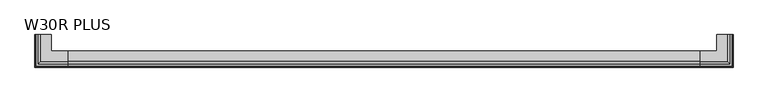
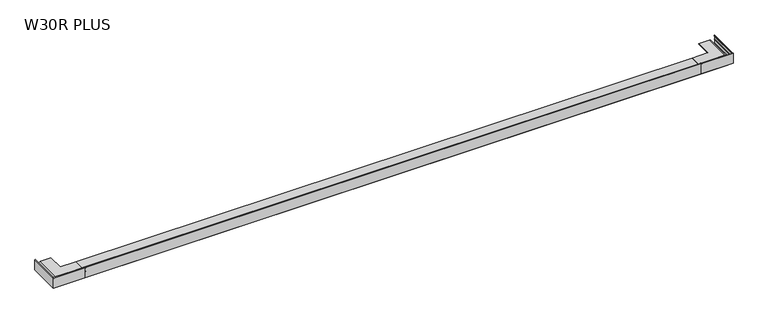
"""IFC4 building model written with IfcOpenShell, lengths in millimetres: proxy geometry, W30R PLUS Profil okapowy prosty z rynną : W30R PLUS."""

from ifc_helpers import new_model, si_unit, point, frame, frame_2d, origin, place, context, project, spatial, polyline, circle_curve, ellipse_curve, trimmed, segment, composite_curve, outline, extrude, source, transform, mapped, element, save
from ifc_brep_helpers import plane_surface, cylinder_surface, revolved_surface, advanced_brep


def w30r_plus_abaad994(model_context):
    return source(origin(), model_context, "Body", "SolidModel", [
        advanced_brep(
        [(4926.0, 0.0, -1.6974779), (4926.0, 0.0, -5.7), (4926.0, -1.5, -5.7), (4926.0, -1.5, -2.4), (4926.0, -16.1, -17.0), (4926.0, -16.1, -73.2535534), (4926.0, -17.6, -74.7535534), (4926.0, -17.6, -34.7), (4926.0, -42.0, -34.7), (4926.0, -42.0, -51.3622205), (4926.0, -43.5, -53.2278443), (4926.0, -43.5, 27.2077037), (4926.0, -40.7, 30.0077037), (4926.0, -40.7, 28.2077037), (4926.0, -41.7, 27.2077037), (4926.0, -41.7, 24.3), (4926.0, -38.5, 24.3), (4926.0, -38.5, 22.8), (4926.0, -42.0, 22.8), (4926.0, -42.0, -3.8), (4926.0, -38.5, -3.8), (4926.0, -38.5, -5.3), (4926.0, -42.0, -5.3), (4926.0, -42.0, -32.3), (4926.0, -18.5, -32.3), (4926.0, -18.5, -17.0), (4926.0, -1.5, 0.0), (4926.0, 79.1, 0.0), (4926.0, 79.1, -1.6974779), (5126.0, 200.0, -1.6974779), (5046.9, 200.0, -1.6974779), (5046.9, 200.0, 0.0), (5127.5, 200.0, 0.0), (5144.5, 200.0, -17.0), (5144.5, 200.0, -32.3), (5168.0, 200.0, -32.3), (5168.0, 200.0, -5.3), (5164.5, 200.0, -5.3), (5164.5, 200.0, -3.8), (5168.0, 200.0, -3.8), (5168.0, 200.0, 22.8), (5164.5, 200.0, 22.8), (5164.5, 200.0, 24.3), (5167.7, 200.0, 24.3), (5167.7, 200.0, 27.2077037), (5166.7, 200.0, 28.2077037), (5166.7, 200.0, 30.0077037), (5169.5, 200.0, 27.2077037), (5169.5, 200.0, -53.2278443), (5168.0, 200.0, -51.3622205), (5168.0, 200.0, -34.7), (5143.6, 200.0, -34.7), (5143.6, 200.0, -74.7535534), (5142.1, 200.0, -73.2535534), (5142.1, 200.0, -17.0), (5127.5, 200.0, -2.4), (5127.5, 200.0, -5.7), (5126.0, 200.0, -5.7), (5046.9, 79.1, -1.6974779), (5126.0, 0.0, -1.6974779), (5046.9, 79.1, 0.0), (5127.5, -1.5, 0.0), (5144.5, -18.5, -17.0), (5144.5, -18.5, -32.3), (5168.0, -42.0, -32.3), (5168.0, -42.0, -5.3), (5164.5, -38.5, -5.3), (5164.5, -38.5, -3.8), (5168.0, -42.0, -3.8), (5168.0, -42.0, 22.8), (5164.5, -38.5, 22.8), (5164.5, -38.5, 24.3), (5167.7, -41.7, 24.3), (5167.7, -41.7, 27.2077037), (5166.7, -40.7, 28.2077037), (5166.7, -40.7, 30.0077037), (5169.5, -43.5, 27.2077037), (5169.5, -43.5, -53.2278443), (5168.0, -42.0, -51.3622205), (5168.0, -42.0, -34.7), (5143.6, -17.6, -34.7), (5143.6, -17.6, -74.7535534), (5142.1, -16.1, -73.2535534), (5142.1, -16.1, -17.0), (5127.5, -1.5, -2.4), (5127.5, -1.5, -5.7), (5126.0, 0.0, -5.7)],
        [
            (0, 1),
            (1, 2),
            (2, 3),
            (3, 4, circle_curve(frame((4926.0, -1.5, -17.0), z_axis=(1.0, 0.0, 0.0), x_axis=(0.0, -0.013888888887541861, 0.9999035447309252)), 14.6)),
            (4, 5),
            (5, 6),
            (6, 7),
            (7, 8),
            (8, 9),
            (9, 10),
            (10, 11),
            (11, 12, circle_curve(frame((4926.0, -40.7, 27.2077037), z_axis=(-1.0, 0.0, 0.0), x_axis=(0.0, -1.0, 6.608047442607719e-12)), 2.8)),
            (12, 13),
            (13, 14, circle_curve(frame((4926.0, -40.7, 27.2077037), z_axis=(1.0, 0.0, 0.0), x_axis=(0.0, -0.16666666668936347, 0.986013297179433)), 1.0)),
            (14, 15),
            (15, 16),
            (16, 17),
            (17, 18),
            (18, 19),
            (19, 20),
            (20, 21),
            (21, 22),
            (22, 23),
            (23, 24),
            (24, 25),
            (25, 26, circle_curve(frame((4926.0, -1.5, -17.0), z_axis=(-1.0, 0.0, 0.0), x_axis=(0.0, -1.0, 0.0)), 17.0)),
            (26, 27),
            (27, 28),
            (28, 0),
            (29, 30),
            (30, 31),
            (31, 32),
            (32, 33, circle_curve(frame((5127.5, 200.0, -17.0), z_axis=(0.0, 1.0, 0.0), x_axis=(1.0, 0.0, 0.0)), 17.0)),
            (33, 34),
            (34, 35),
            (35, 36),
            (36, 37),
            (37, 38),
            (38, 39),
            (39, 40),
            (40, 41),
            (41, 42),
            (42, 43),
            (43, 44),
            (44, 45, circle_curve(frame((5166.7, 200.0, 27.2077037), z_axis=(0.0, -1.0, 0.0), x_axis=(0.16666666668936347, 0.0, 0.986013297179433)), 1.0)),
            (45, 46),
            (46, 47, circle_curve(frame((5166.7, 200.0, 27.2077037), z_axis=(0.0, 1.0, 0.0), x_axis=(1.0, 0.0, 6.608047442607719e-12)), 2.8)),
            (47, 48),
            (48, 49),
            (49, 50),
            (50, 51),
            (51, 52),
            (52, 53),
            (53, 54),
            (54, 55, circle_curve(frame((5127.5, 200.0, -17.0), z_axis=(0.0, -1.0, 0.0), x_axis=(0.013888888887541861, 0.0, 0.9999035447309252)), 14.6)),
            (55, 56),
            (56, 57),
            (57, 29),
            (28, 58),
            (58, 30),
            (29, 59),
            (59, 0),
            (27, 60),
            (60, 58),
            (26, 61),
            (61, 32),
            (31, 60),
            (25, 62),
            (62, 61, ellipse_curve(frame((5127.5, -1.5, -17.0), z_axis=(-0.7071067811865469, -0.707106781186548, 0.0), x_axis=(-0.7071067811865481, 0.7071067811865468, 0.0)), 24.0416306, 17.0)),
            (24, 63),
            (63, 62),
            (23, 64),
            (64, 35),
            (34, 63),
            (22, 65),
            (65, 64),
            (21, 66),
            (66, 37),
            (36, 65),
            (20, 67),
            (67, 66),
            (19, 68),
            (68, 39),
            (38, 67),
            (18, 69),
            (69, 68),
            (17, 70),
            (70, 41),
            (40, 69),
            (16, 71),
            (71, 70),
            (15, 72),
            (72, 43),
            (42, 71),
            (14, 73),
            (73, 72),
            (13, 74),
            (74, 73, ellipse_curve(frame((5166.7, -40.7, 27.2077037), z_axis=(0.7071067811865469, 0.707106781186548, 0.0), x_axis=(0.7071067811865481, -0.7071067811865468, 0.0)), 1.4142136, 1.0)),
            (12, 75),
            (75, 74),
            (11, 76),
            (76, 75, ellipse_curve(frame((5166.7, -40.7, 27.2077037), z_axis=(-0.7071067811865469, -0.707106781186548, 0.0), x_axis=(-0.7071067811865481, 0.7071067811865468, 0.0)), 3.959798, 2.8)),
            (10, 77),
            (77, 76),
            (9, 78),
            (78, 77),
            (8, 79),
            (79, 78),
            (7, 80),
            (80, 51),
            (50, 79),
            (6, 81),
            (81, 80),
            (5, 82),
            (82, 81),
            (4, 83),
            (83, 82),
            (3, 84),
            (84, 83, ellipse_curve(frame((5127.5, -1.5, -17.0), z_axis=(0.7071067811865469, 0.707106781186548, 0.0), x_axis=(0.7071067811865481, -0.7071067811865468, 0.0)), 20.647518, 14.6)),
            (2, 85),
            (85, 84),
            (1, 86),
            (86, 57),
            (56, 85),
            (59, 86),
            (62, 33),
            (73, 44),
            (74, 45),
            (75, 46),
            (76, 47),
            (77, 48),
            (78, 49),
            (81, 52),
            (82, 53),
            (83, 54),
            (84, 55),
        ],
        [
            plane_surface(frame((4926.0, 0.0, 0.0), z_axis=(-1.0, 0.0, 0.0), x_axis=(0.0, 0.0, 1.0))),
            plane_surface(frame((5126.0, 200.0, 0.0), z_axis=(0.0, 1.0, 0.0), x_axis=(0.0, 0.0, 1.0))),
            plane_surface(frame((4926.0, 0.0, -1.6974779), z_axis=(0.0, 0.0, -1.0), x_axis=(1.0, 0.0, 0.0))),
            plane_surface(frame((4926.0, 79.1, -1.6974779), z_axis=(0.0, 1.0, 0.0), x_axis=(1.0, 0.0, 0.0))),
            plane_surface(frame((4926.0, 79.1, 0.0), z_axis=(0.0, 0.0, 1.0), x_axis=(1.0, 0.0, 0.0))),
            cylinder_surface(frame((4926.0, -1.5, -17.0), z_axis=(-1.0, 0.0, 0.0), x_axis=(0.0, -1.0, 0.0)), 17.0),
            plane_surface(frame((4926.0, -18.5, -17.0), z_axis=(0.0, -1.0, 0.0), x_axis=(1.0, 0.0, 0.0))),
            plane_surface(frame((4926.0, -18.5, -32.3), z_axis=(0.0, 0.0, 1.0), x_axis=(1.0, 0.0, 0.0))),
            plane_surface(frame((4926.0, -42.0, -32.3), z_axis=(0.0, 1.0, 0.0), x_axis=(1.0, 0.0, 0.0))),
            plane_surface(frame((4926.0, -42.0, -5.3), z_axis=(0.0, 0.0, -1.0), x_axis=(1.0, 0.0, 0.0))),
            plane_surface(frame((4926.0, -38.5, -5.3), z_axis=(0.0, 1.0, 0.0), x_axis=(1.0, 0.0, 0.0))),
            plane_surface(frame((4926.0, -38.5, -3.8), z_axis=(0.0, 0.0, 1.0), x_axis=(1.0, 0.0, 0.0))),
            plane_surface(frame((4926.0, -42.0, -3.8), z_axis=(0.0, 1.0, 0.0), x_axis=(1.0, 0.0, 0.0))),
            plane_surface(frame((4926.0, -42.0, 22.8), z_axis=(0.0, 0.0, -1.0), x_axis=(1.0, 0.0, 0.0))),
            plane_surface(frame((4926.0, -38.5, 22.8), z_axis=(0.0, 1.0, 0.0), x_axis=(1.0, 0.0, 0.0))),
            plane_surface(frame((4926.0, -38.5, 24.3), z_axis=(0.0, 0.0, 1.0), x_axis=(1.0, 0.0, 0.0))),
            plane_surface(frame((4926.0, -41.7, 24.3), z_axis=(0.0, 1.0, 0.0), x_axis=(1.0, 0.0, 0.0))),
            revolved_surface(polyline([(5167.700000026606, -40.86666666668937, 28.193716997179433), (4926.0, -40.86666666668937, 28.193716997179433)]), (4926.0, -40.7, 27.2077037), (1.0000000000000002, 0.0, 0.0)),
            plane_surface(frame((4926.0, -40.7, 28.2077037), z_axis=(0.0, 1.0, 0.0), x_axis=(1.0, 0.0, 0.0))),
            cylinder_surface(frame((4926.0, -40.7, 27.2077037), z_axis=(-1.0, 0.0, 0.0), x_axis=(0.0, -1.0, 6.608047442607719e-12)), 2.8),
            plane_surface(frame((4926.0, -43.5, 27.2077037), z_axis=(0.0, -1.0, 0.0), x_axis=(1.0, 0.0, 0.0))),
            plane_surface(frame((4926.0, -43.5, -53.2278443), z_axis=(0.0, 0.7793379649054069, -0.6266038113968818), x_axis=(1.0, 0.0, 0.0))),
            plane_surface(frame((4926.0, -42.0, -51.3622205), z_axis=(0.0, 1.0, 0.0), x_axis=(1.0, 0.0, 0.0))),
            plane_surface(frame((4926.0, -42.0, -34.7), z_axis=(0.0, 0.0, -1.0), x_axis=(1.0, 0.0, 0.0))),
            plane_surface(frame((4926.0, -17.6, -34.7), z_axis=(0.0, -1.0, 0.0), x_axis=(1.0, 0.0, 0.0))),
            plane_surface(frame((4926.0, -17.6, -74.7535534), z_axis=(0.0, 0.7071067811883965, -0.7071067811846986), x_axis=(1.0, 0.0, 0.0))),
            plane_surface(frame((4926.0, -16.1, -73.2535534), z_axis=(0.0, 1.0, 0.0), x_axis=(1.0, 0.0, 0.0))),
            revolved_surface(polyline([(5142.1, -1.7027777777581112, -2.401408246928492), (4926.0, -1.7027777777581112, -2.401408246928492)]), (4926.0, -1.5, -17.0), (1.0, 0.0, 0.0)),
            plane_surface(frame((4926.0, -1.5, -2.4), z_axis=(0.0, -1.0, 0.0), x_axis=(1.0, 0.0, 0.0))),
            plane_surface(frame((4926.0, -1.5, -5.7), z_axis=(0.0, 0.0, -1.0), x_axis=(1.0, 0.0, 0.0))),
            plane_surface(frame((4926.0, 0.0, -5.7), z_axis=(0.0, 1.0, 0.0), x_axis=(1.0, 0.0, 0.0))),
            plane_surface(frame((5046.9, 79.1, -1.6974779), z_axis=(-1.0, 0.0, 0.0), x_axis=(0.0, 1.0, 0.0))),
            cylinder_surface(frame((5127.5, 0.0, -17.0), z_axis=(0.0, -1.0, 0.0), x_axis=(1.0, 0.0, 0.0)), 17.0),
            plane_surface(frame((5144.5, -18.5, -17.0), z_axis=(1.0, 0.0, 0.0), x_axis=(0.0, 1.0, 0.0))),
            plane_surface(frame((5168.0, -42.0, -32.3), z_axis=(-1.0, 0.0, 0.0), x_axis=(0.0, 1.0, 0.0))),
            plane_surface(frame((5164.5, -38.5, -5.3), z_axis=(-1.0, 0.0, 0.0), x_axis=(0.0, 1.0, 0.0))),
            plane_surface(frame((5168.0, -42.0, -3.8), z_axis=(-1.0, 0.0, 0.0), x_axis=(0.0, 1.0, 0.0))),
            plane_surface(frame((5164.5, -38.5, 22.8), z_axis=(-1.0, 0.0, 0.0), x_axis=(0.0, 1.0, 0.0))),
            plane_surface(frame((5167.7, -41.7, 24.3), z_axis=(-1.0, 0.0, 0.0), x_axis=(0.0, 1.0, 0.0))),
            revolved_surface(polyline([(5166.8666666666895, 200.0000000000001, 28.193716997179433), (5166.8666666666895, -41.700000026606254, 28.193716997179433)]), (5166.7, 0.0, 27.2077037), (0.0, 1.0000000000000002, 0.0)),
            plane_surface(frame((5166.7, -40.7, 28.2077037), z_axis=(-1.0, 0.0, 0.0), x_axis=(0.0, 1.0, 0.0))),
            cylinder_surface(frame((5166.7, 0.0, 27.2077037), z_axis=(0.0, -1.0, 0.0), x_axis=(1.0, 0.0, 6.608047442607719e-12)), 2.8),
            plane_surface(frame((5169.5, -43.5, 27.2077037), z_axis=(1.0, 0.0, 0.0), x_axis=(0.0, 1.0, 0.0))),
            plane_surface(frame((5169.5, -43.5, -53.2278443), z_axis=(-0.7793379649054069, 0.0, -0.6266038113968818), x_axis=(0.0, 1.0, 0.0))),
            plane_surface(frame((5168.0, -42.0, -51.3622205), z_axis=(-1.0, 0.0, 0.0), x_axis=(0.0, 1.0, 0.0))),
            plane_surface(frame((5143.6, -17.6, -34.7), z_axis=(1.0, 0.0, 0.0), x_axis=(0.0, 1.0, 0.0))),
            plane_surface(frame((5143.6, -17.6, -74.7535534), z_axis=(-0.7071067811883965, 0.0, -0.7071067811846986), x_axis=(0.0, 1.0, 0.0))),
            plane_surface(frame((5142.1, -16.1, -73.2535534), z_axis=(-1.0, 0.0, 0.0), x_axis=(0.0, 1.0, 0.0))),
            revolved_surface(polyline([(5127.7027777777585, 200.0, -2.401408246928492), (5127.7027777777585, -16.1, -2.401408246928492)]), (5127.5, 0.0, -17.0), (0.0, 1.0, 0.0)),
            plane_surface(frame((5127.5, -1.5, -2.4), z_axis=(1.0, 0.0, 0.0), x_axis=(0.0, 1.0, 0.0))),
            plane_surface(frame((5126.0, 0.0, -5.7), z_axis=(-1.0, 0.0, 0.0), x_axis=(0.0, 1.0, 0.0))),
        ],
        [
            (0, [[1, 2, 3, 4, 5, 6, 7, 8, 9, 10, 11, 12, 13, 14, 15, 16, 17, 18, 19, 20, 21, 22, 23, 24, 25, 26, 27, 28, 29]]),
            (1, [[30, 31, 32, 33, 34, 35, 36, 37, 38, 39, 40, 41, 42, 43, 44, 45, 46, 47, 48, 49, 50, 51, 52, 53, 54, 55, 56, 57, 58]]),
            (2, [[59, 60, -30, 61, 62, -29]]),
            (3, [[63, 64, -59, -28]]),
            (4, [[65, 66, -32, 67, -63, -27]]),
            (5, [[68, 69, -65, -26]]),
            (6, [[70, 71, -68, -25]]),
            (7, [[72, 73, -35, 74, -70, -24]]),
            (8, [[75, 76, -72, -23]]),
            (9, [[77, 78, -37, 79, -75, -22]]),
            (10, [[80, 81, -77, -21]]),
            (11, [[82, 83, -39, 84, -80, -20]]),
            (12, [[85, 86, -82, -19]]),
            (13, [[87, 88, -41, 89, -85, -18]]),
            (14, [[90, 91, -87, -17]]),
            (15, [[92, 93, -43, 94, -90, -16]]),
            (16, [[95, 96, -92, -15]]),
            (17, [[97, 98, -95, -14]]),
            (18, [[99, 100, -97, -13]]),
            (19, [[101, 102, -99, -12]]),
            (20, [[103, 104, -101, -11]]),
            (21, [[105, 106, -103, -10]]),
            (22, [[107, 108, -105, -9]]),
            (23, [[109, 110, -51, 111, -107, -8]]),
            (24, [[112, 113, -109, -7]]),
            (25, [[114, 115, -112, -6]]),
            (26, [[116, 117, -114, -5]]),
            (27, [[118, 119, -116, -4]]),
            (28, [[120, 121, -118, -3]]),
            (29, [[122, 123, -57, 124, -120, -2]]),
            (30, [[-62, 125, -122, -1]]),
            (31, [[-67, -31, -60, -64]]),
            (32, [[126, -33, -66, -69]]),
            (33, [[-74, -34, -126, -71]]),
            (34, [[-79, -36, -73, -76]]),
            (35, [[-84, -38, -78, -81]]),
            (36, [[-89, -40, -83, -86]]),
            (37, [[-94, -42, -88, -91]]),
            (38, [[127, -44, -93, -96]]),
            (39, [[128, -45, -127, -98]]),
            (40, [[129, -46, -128, -100]]),
            (41, [[130, -47, -129, -102]]),
            (42, [[131, -48, -130, -104]]),
            (43, [[132, -49, -131, -106]]),
            (44, [[-111, -50, -132, -108]]),
            (45, [[133, -52, -110, -113]]),
            (46, [[134, -53, -133, -115]]),
            (47, [[135, -54, -134, -117]]),
            (48, [[136, -55, -135, -119]]),
            (49, [[-124, -56, -136, -121]]),
            (50, [[-61, -58, -123, -125]]),
        ],
    ),
        advanced_brep(
        [(200.0, 0.0, -1.6974779), (200.0, 79.1, -1.6974779), (200.0, 79.1, 0.0), (200.0, -1.5, 0.0), (200.0, -18.5, -17.0), (200.0, -18.5, -32.3), (200.0, -42.0, -32.3), (200.0, -42.0, -5.3), (200.0, -38.5, -5.3), (200.0, -38.5, -3.8), (200.0, -42.0, -3.8), (200.0, -42.0, 22.8), (200.0, -38.5, 22.8), (200.0, -38.5, 24.3), (200.0, -41.7, 24.3), (200.0, -41.7, 27.2077037), (200.0, -40.7, 28.2077037), (200.0, -40.7, 30.0077037), (200.0, -43.5, 27.2077037), (200.0, -43.5, -53.2278443), (200.0, -42.0, -51.3622205), (200.0, -42.0, -34.7), (200.0, -17.6, -34.7), (200.0, -17.6, -74.7535534), (200.0, -16.1, -73.2535534), (200.0, -16.1, -17.0), (200.0, -1.5, -2.4), (200.0, -1.5, -5.7), (200.0, 0.0, -5.7), (0.0, 200.0, -1.6974779), (0.0, 200.0, -5.7), (-1.5, 200.0, -5.7), (-1.5, 200.0, -2.4), (-16.1, 200.0, -17.0), (-16.1, 200.0, -73.2535534), (-17.6, 200.0, -74.7535534), (-17.6, 200.0, -34.7), (-42.0, 200.0, -34.7), (-42.0, 200.0, -51.3622205), (-43.5, 200.0, -53.2278443), (-43.5, 200.0, 27.2077037), (-40.7, 200.0, 30.0077037), (-40.7, 200.0, 28.2077037), (-41.7, 200.0, 27.2077037), (-41.7, 200.0, 24.3), (-38.5, 200.0, 24.3), (-38.5, 200.0, 22.8), (-42.0, 200.0, 22.8), (-42.0, 200.0, -3.8), (-38.5, 200.0, -3.8), (-38.5, 200.0, -5.3), (-42.0, 200.0, -5.3), (-42.0, 200.0, -32.3), (-18.5, 200.0, -32.3), (-18.5, 200.0, -17.0), (-1.5, 200.0, 0.0), (79.1, 200.0, 0.0), (79.1, 200.0, -1.6974779), (0.0, 0.0, -1.6974779), (79.1, 79.1, -1.6974779), (79.1, 79.1, 0.0), (-1.5, -1.5, 0.0), (-18.5, -18.5, -17.0), (-18.5, -18.5, -32.3), (-42.0, -42.0, -32.3), (-42.0, -42.0, -5.3), (-38.5, -38.5, -5.3), (-38.5, -38.5, -3.8), (-42.0, -42.0, -3.8), (-42.0, -42.0, 22.8), (-38.5, -38.5, 22.8), (-38.5, -38.5, 24.3), (-41.7, -41.7, 24.3), (-41.7, -41.7, 27.2077037), (-40.7, -40.7, 28.2077037), (-40.7, -40.7, 30.0077037), (-43.5, -43.5, 27.2077037), (-43.5, -43.5, -53.2278443), (-42.0, -42.0, -51.3622205), (-42.0, -42.0, -34.7), (-17.6, -17.6, -34.7), (-17.6, -17.6, -74.7535534), (-16.1, -16.1, -73.2535534), (-16.1, -16.1, -17.0), (-1.5, -1.5, -2.4), (-1.5, -1.5, -5.7), (0.0, 0.0, -5.7)],
        [
            (0, 1),
            (1, 2),
            (2, 3),
            (3, 4, circle_curve(frame((200.0, -1.5, -17.0), z_axis=(1.0, 0.0, 0.0), x_axis=(0.0, -1.0, 0.0)), 17.0)),
            (4, 5),
            (5, 6),
            (6, 7),
            (7, 8),
            (8, 9),
            (9, 10),
            (10, 11),
            (11, 12),
            (12, 13),
            (13, 14),
            (14, 15),
            (15, 16, circle_curve(frame((200.0, -40.7, 27.2077037), z_axis=(-1.0, 0.0, 0.0), x_axis=(0.0, -0.16666666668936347, 0.986013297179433)), 1.0)),
            (16, 17),
            (17, 18, circle_curve(frame((200.0, -40.7, 27.2077037), z_axis=(1.0, 0.0, 0.0), x_axis=(0.0, -1.0, 6.608047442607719e-12)), 2.8)),
            (18, 19),
            (19, 20),
            (20, 21),
            (21, 22),
            (22, 23),
            (23, 24),
            (24, 25),
            (25, 26, circle_curve(frame((200.0, -1.5, -17.0), z_axis=(-1.0, 0.0, 0.0), x_axis=(0.0, -0.013888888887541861, 0.9999035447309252)), 14.6)),
            (26, 27),
            (27, 28),
            (28, 0),
            (29, 30),
            (30, 31),
            (31, 32),
            (32, 33, circle_curve(frame((-1.5, 200.0, -17.0), z_axis=(0.0, -1.0, 0.0), x_axis=(-0.013888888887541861, 0.0, 0.9999035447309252)), 14.6)),
            (33, 34),
            (34, 35),
            (35, 36),
            (36, 37),
            (37, 38),
            (38, 39),
            (39, 40),
            (40, 41, circle_curve(frame((-40.7, 200.0, 27.2077037), z_axis=(0.0, 1.0, 0.0), x_axis=(-1.0, 0.0, 6.608047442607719e-12)), 2.8)),
            (41, 42),
            (42, 43, circle_curve(frame((-40.7, 200.0, 27.2077037), z_axis=(0.0, -1.0, 0.0), x_axis=(-0.16666666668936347, 0.0, 0.986013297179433)), 1.0)),
            (43, 44),
            (44, 45),
            (45, 46),
            (46, 47),
            (47, 48),
            (48, 49),
            (49, 50),
            (50, 51),
            (51, 52),
            (52, 53),
            (53, 54),
            (54, 55, circle_curve(frame((-1.5, 200.0, -17.0), z_axis=(0.0, 1.0, 0.0), x_axis=(-1.0, 0.0, 0.0)), 17.0)),
            (55, 56),
            (56, 57),
            (57, 29),
            (0, 58),
            (58, 29),
            (57, 59),
            (59, 1),
            (59, 60),
            (60, 2),
            (60, 56),
            (55, 61),
            (61, 3),
            (61, 62, ellipse_curve(frame((-1.5, -1.5, -17.0), z_axis=(0.7071067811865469, -0.707106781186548, 0.0), x_axis=(0.7071067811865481, 0.7071067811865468, 0.0)), 24.0416306, 17.0)),
            (62, 4),
            (62, 63),
            (63, 5),
            (63, 53),
            (52, 64),
            (64, 6),
            (64, 65),
            (65, 7),
            (65, 51),
            (50, 66),
            (66, 8),
            (66, 67),
            (67, 9),
            (67, 49),
            (48, 68),
            (68, 10),
            (68, 69),
            (69, 11),
            (69, 47),
            (46, 70),
            (70, 12),
            (70, 71),
            (71, 13),
            (71, 45),
            (44, 72),
            (72, 14),
            (72, 73),
            (73, 15),
            (73, 74, ellipse_curve(frame((-40.7, -40.7, 27.2077037), z_axis=(-0.7071067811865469, 0.707106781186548, 0.0), x_axis=(-0.7071067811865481, -0.7071067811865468, 0.0)), 1.4142136, 1.0)),
            (74, 16),
            (74, 75),
            (75, 17),
            (75, 76, ellipse_curve(frame((-40.7, -40.7, 27.2077037), z_axis=(0.7071067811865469, -0.707106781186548, 0.0), x_axis=(0.7071067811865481, 0.7071067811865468, 0.0)), 3.959798, 2.8)),
            (76, 18),
            (76, 77),
            (77, 19),
            (77, 78),
            (78, 20),
            (78, 79),
            (79, 21),
            (79, 37),
            (36, 80),
            (80, 22),
            (80, 81),
            (81, 23),
            (81, 82),
            (82, 24),
            (82, 83),
            (83, 25),
            (83, 84, ellipse_curve(frame((-1.5, -1.5, -17.0), z_axis=(-0.7071067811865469, 0.707106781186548, 0.0), x_axis=(-0.7071067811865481, -0.7071067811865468, 0.0)), 20.647518, 14.6)),
            (84, 26),
            (84, 85),
            (85, 27),
            (85, 31),
            (30, 86),
            (86, 28),
            (86, 58),
            (54, 62),
            (43, 73),
            (42, 74),
            (41, 75),
            (40, 76),
            (39, 77),
            (38, 78),
            (35, 81),
            (34, 82),
            (33, 83),
            (32, 84),
        ],
        [
            plane_surface(frame((200.0, 0.0, 0.0), z_axis=(1.0, 0.0, 0.0), x_axis=(0.0, 0.0, 1.0))),
            plane_surface(frame((0.0, 200.0, 0.0), z_axis=(0.0, 1.0, 0.0), x_axis=(0.0, 0.0, 1.0))),
            plane_surface(frame((200.0, 0.0, -1.6974779), z_axis=(0.0, 0.0, -1.0), x_axis=(-1.0, 0.0, 0.0))),
            plane_surface(frame((200.0, 79.1, -1.6974779), z_axis=(0.0, 1.0, 0.0), x_axis=(-1.0, 0.0, 0.0))),
            plane_surface(frame((200.0, 79.1, 0.0), z_axis=(0.0, 0.0, 1.0), x_axis=(-1.0, 0.0, 0.0))),
            cylinder_surface(frame((200.0, -1.5, -17.0), z_axis=(1.0, 0.0, 0.0), x_axis=(0.0, -1.0, 0.0)), 17.0),
            plane_surface(frame((200.0, -18.5, -17.0), z_axis=(0.0, -1.0, 0.0), x_axis=(-1.0, 0.0, 0.0))),
            plane_surface(frame((200.0, -18.5, -32.3), z_axis=(0.0, 0.0, 1.0), x_axis=(-1.0, 0.0, 0.0))),
            plane_surface(frame((200.0, -42.0, -32.3), z_axis=(0.0, 1.0, 0.0), x_axis=(-1.0, 0.0, 0.0))),
            plane_surface(frame((200.0, -42.0, -5.3), z_axis=(0.0, 0.0, -1.0), x_axis=(-1.0, 0.0, 0.0))),
            plane_surface(frame((200.0, -38.5, -5.3), z_axis=(0.0, 1.0, 0.0), x_axis=(-1.0, 0.0, 0.0))),
            plane_surface(frame((200.0, -38.5, -3.8), z_axis=(0.0, 0.0, 1.0), x_axis=(-1.0, 0.0, 0.0))),
            plane_surface(frame((200.0, -42.0, -3.8), z_axis=(0.0, 1.0, 0.0), x_axis=(-1.0, 0.0, 0.0))),
            plane_surface(frame((200.0, -42.0, 22.8), z_axis=(0.0, 0.0, -1.0), x_axis=(-1.0, 0.0, 0.0))),
            plane_surface(frame((200.0, -38.5, 22.8), z_axis=(0.0, 1.0, 0.0), x_axis=(-1.0, 0.0, 0.0))),
            plane_surface(frame((200.0, -38.5, 24.3), z_axis=(0.0, 0.0, 1.0), x_axis=(-1.0, 0.0, 0.0))),
            plane_surface(frame((200.0, -41.7, 24.3), z_axis=(0.0, 1.0, 0.0), x_axis=(-1.0, 0.0, 0.0))),
            revolved_surface(polyline([(-41.70000002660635, -40.86666666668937, 28.193716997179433), (200.0, -40.86666666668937, 28.193716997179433)]), (200.0, -40.7, 27.2077037), (-1.0000000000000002, 0.0, 0.0)),
            plane_surface(frame((200.0, -40.7, 28.2077037), z_axis=(0.0, 1.0, 0.0), x_axis=(-1.0, 0.0, 0.0))),
            cylinder_surface(frame((200.0, -40.7, 27.2077037), z_axis=(1.0, 0.0, 0.0), x_axis=(0.0, -1.0, 6.608047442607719e-12)), 2.8),
            plane_surface(frame((200.0, -43.5, 27.2077037), z_axis=(0.0, -1.0, 0.0), x_axis=(-1.0, 0.0, 0.0))),
            plane_surface(frame((200.0, -43.5, -53.2278443), z_axis=(0.0, 0.7793379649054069, -0.6266038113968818), x_axis=(-1.0, 0.0, 0.0))),
            plane_surface(frame((200.0, -42.0, -51.3622205), z_axis=(0.0, 1.0, 0.0), x_axis=(-1.0, 0.0, 0.0))),
            plane_surface(frame((200.0, -42.0, -34.7), z_axis=(0.0, 0.0, -1.0), x_axis=(-1.0, 0.0, 0.0))),
            plane_surface(frame((200.0, -17.6, -34.7), z_axis=(0.0, -1.0, 0.0), x_axis=(-1.0, 0.0, 0.0))),
            plane_surface(frame((200.0, -17.6, -74.7535534), z_axis=(0.0, 0.7071067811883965, -0.7071067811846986), x_axis=(-1.0, 0.0, 0.0))),
            plane_surface(frame((200.0, -16.1, -73.2535534), z_axis=(0.0, 1.0, 0.0), x_axis=(-1.0, 0.0, 0.0))),
            revolved_surface(polyline([(-16.099999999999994, -1.7027777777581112, -2.401408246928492), (200.0, -1.7027777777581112, -2.401408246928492)]), (200.0, -1.5, -17.0), (-1.0, 0.0, 0.0)),
            plane_surface(frame((200.0, -1.5, -2.4), z_axis=(0.0, -1.0, 0.0), x_axis=(-1.0, 0.0, 0.0))),
            plane_surface(frame((200.0, -1.5, -5.7), z_axis=(0.0, 0.0, -1.0), x_axis=(-1.0, 0.0, 0.0))),
            plane_surface(frame((200.0, 0.0, -5.7), z_axis=(0.0, 1.0, 0.0), x_axis=(-1.0, 0.0, 0.0))),
            plane_surface(frame((79.1, 79.1, -1.6974779), z_axis=(1.0, 0.0, 0.0), x_axis=(0.0, 1.0, 0.0))),
            cylinder_surface(frame((-1.5, 0.0, -17.0), z_axis=(0.0, -1.0, 0.0), x_axis=(-1.0, 0.0, 0.0)), 17.0),
            plane_surface(frame((-18.5, -18.5, -17.0), z_axis=(-1.0, 0.0, 0.0), x_axis=(0.0, 1.0, 0.0))),
            plane_surface(frame((-42.0, -42.0, -32.3), z_axis=(1.0, 0.0, 0.0), x_axis=(0.0, 1.0, 0.0))),
            plane_surface(frame((-38.5, -38.5, -5.3), z_axis=(1.0, 0.0, 0.0), x_axis=(0.0, 1.0, 0.0))),
            plane_surface(frame((-42.0, -42.0, -3.8), z_axis=(1.0, 0.0, 0.0), x_axis=(0.0, 1.0, 0.0))),
            plane_surface(frame((-38.5, -38.5, 22.8), z_axis=(1.0, 0.0, 0.0), x_axis=(0.0, 1.0, 0.0))),
            plane_surface(frame((-41.7, -41.7, 24.3), z_axis=(1.0, 0.0, 0.0), x_axis=(0.0, 1.0, 0.0))),
            revolved_surface(polyline([(-40.86666666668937, 200.0000000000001, 28.193716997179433), (-40.86666666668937, -41.700000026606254, 28.193716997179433)]), (-40.7, 0.0, 27.2077037), (0.0, 1.0000000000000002, 0.0)),
            plane_surface(frame((-40.7, -40.7, 28.2077037), z_axis=(1.0, 0.0, 0.0), x_axis=(0.0, 1.0, 0.0))),
            cylinder_surface(frame((-40.7, 0.0, 27.2077037), z_axis=(0.0, -1.0, 0.0), x_axis=(-1.0, 0.0, 6.608047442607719e-12)), 2.8),
            plane_surface(frame((-43.5, -43.5, 27.2077037), z_axis=(-1.0, 0.0, 0.0), x_axis=(0.0, 1.0, 0.0))),
            plane_surface(frame((-43.5, -43.5, -53.2278443), z_axis=(0.7793379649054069, 0.0, -0.6266038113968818), x_axis=(0.0, 1.0, 0.0))),
            plane_surface(frame((-42.0, -42.0, -51.3622205), z_axis=(1.0, 0.0, 0.0), x_axis=(0.0, 1.0, 0.0))),
            plane_surface(frame((-17.6, -17.6, -34.7), z_axis=(-1.0, 0.0, 0.0), x_axis=(0.0, 1.0, 0.0))),
            plane_surface(frame((-17.6, -17.6, -74.7535534), z_axis=(0.7071067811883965, 0.0, -0.7071067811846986), x_axis=(0.0, 1.0, 0.0))),
            plane_surface(frame((-16.1, -16.1, -73.2535534), z_axis=(1.0, 0.0, 0.0), x_axis=(0.0, 1.0, 0.0))),
            revolved_surface(polyline([(-1.7027777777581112, 200.0, -2.401408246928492), (-1.7027777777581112, -16.1, -2.401408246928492)]), (-1.5, 0.0, -17.0), (0.0, 1.0, 0.0)),
            plane_surface(frame((-1.5, -1.5, -2.4), z_axis=(-1.0, 0.0, 0.0), x_axis=(0.0, 1.0, 0.0))),
            plane_surface(frame((0.0, 0.0, -5.7), z_axis=(1.0, 0.0, 0.0), x_axis=(0.0, 1.0, 0.0))),
        ],
        [
            (0, [[1, 2, 3, 4, 5, 6, 7, 8, 9, 10, 11, 12, 13, 14, 15, 16, 17, 18, 19, 20, 21, 22, 23, 24, 25, 26, 27, 28, 29]]),
            (1, [[30, 31, 32, 33, 34, 35, 36, 37, 38, 39, 40, 41, 42, 43, 44, 45, 46, 47, 48, 49, 50, 51, 52, 53, 54, 55, 56, 57, 58]]),
            (2, [[-1, 59, 60, -58, 61, 62]]),
            (3, [[-2, -62, 63, 64]]),
            (4, [[-3, -64, 65, -56, 66, 67]]),
            (5, [[-4, -67, 68, 69]]),
            (6, [[-5, -69, 70, 71]]),
            (7, [[-6, -71, 72, -53, 73, 74]]),
            (8, [[-7, -74, 75, 76]]),
            (9, [[-8, -76, 77, -51, 78, 79]]),
            (10, [[-9, -79, 80, 81]]),
            (11, [[-10, -81, 82, -49, 83, 84]]),
            (12, [[-11, -84, 85, 86]]),
            (13, [[-12, -86, 87, -47, 88, 89]]),
            (14, [[-13, -89, 90, 91]]),
            (15, [[-14, -91, 92, -45, 93, 94]]),
            (16, [[-15, -94, 95, 96]]),
            (17, [[-16, -96, 97, 98]]),
            (18, [[-17, -98, 99, 100]]),
            (19, [[-18, -100, 101, 102]]),
            (20, [[-19, -102, 103, 104]]),
            (21, [[-20, -104, 105, 106]]),
            (22, [[-21, -106, 107, 108]]),
            (23, [[-22, -108, 109, -37, 110, 111]]),
            (24, [[-23, -111, 112, 113]]),
            (25, [[-24, -113, 114, 115]]),
            (26, [[-25, -115, 116, 117]]),
            (27, [[-26, -117, 118, 119]]),
            (28, [[-27, -119, 120, 121]]),
            (29, [[-28, -121, 122, -31, 123, 124]]),
            (30, [[-29, -124, 125, -59]]),
            (31, [[-63, -61, -57, -65]]),
            (32, [[-68, -66, -55, 126]]),
            (33, [[-70, -126, -54, -72]]),
            (34, [[-75, -73, -52, -77]]),
            (35, [[-80, -78, -50, -82]]),
            (36, [[-85, -83, -48, -87]]),
            (37, [[-90, -88, -46, -92]]),
            (38, [[-95, -93, -44, 127]]),
            (39, [[-97, -127, -43, 128]]),
            (40, [[-99, -128, -42, 129]]),
            (41, [[-101, -129, -41, 130]]),
            (42, [[-103, -130, -40, 131]]),
            (43, [[-105, -131, -39, 132]]),
            (44, [[-107, -132, -38, -109]]),
            (45, [[-112, -110, -36, 133]]),
            (46, [[-114, -133, -35, 134]]),
            (47, [[-116, -134, -34, 135]]),
            (48, [[-118, -135, -33, 136]]),
            (49, [[-120, -136, -32, -122]]),
            (50, [[-125, -123, -30, -60]]),
        ],
    ),
        extrude(outline(composite_curve([segment(polyline([(0.0, -1.6974779), (0.0, -5.7), (-1.5, -5.7), (-1.5, -2.4)]), True, "CONTINUOUS"), segment(trimmed(circle_curve(frame_2d((-1.5, -17.0)), 14.6), [point((-1.5, -2.4))], [point((-16.1, -17.0))], True, "CARTESIAN"), True, "CONTINUOUS"), segment(polyline([(-16.1, -17.0), (-16.1, -73.2535534), (-17.6, -74.7535534), (-17.6, -34.7), (-42.0, -34.7), (-42.0, -51.3622205), (-43.5, -53.2278443), (-43.5, 27.2077037)]), True, "CONTINUOUS"), segment(trimmed(circle_curve(frame_2d((-40.7, 27.2077037)), 2.8), [point((-43.5, 27.2077037))], [point((-40.7, 30.0077037))], False, "CARTESIAN"), True, "CONTINUOUS"), segment(polyline([(-40.7, 30.0077037), (-40.7, 28.2077037)]), True, "CONTINUOUS"), segment(trimmed(circle_curve(frame_2d((-40.7, 27.2077037)), 1.0), [point((-40.7, 28.2077037))], [point((-41.7, 27.2077037))], True, "CARTESIAN"), True, "CONTINUOUS"), segment(polyline([(-41.7, 27.2077037), (-41.7, 24.3), (-38.5, 24.3), (-38.5, 22.8), (-42.0, 22.8), (-42.0, -3.8), (-38.5, -3.8), (-38.5, -5.3), (-42.0, -5.3), (-42.0, -32.3), (-18.5, -32.3), (-18.5, -17.0)]), True, "CONTINUOUS"), segment(trimmed(circle_curve(frame_2d((-1.5, -17.0)), 17.0), [point((-18.5, -17.0))], [point((-1.5, 0.0))], False, "CARTESIAN"), True, "CONTINUOUS"), segment(polyline([(-1.5, 0.0), (79.1, 0.0), (79.1, -1.6974779), (0.0, -1.6974779)]), True, "CONTINUOUS")], self_intersect=False)), frame((200.0, 0.0, 0.0), z_axis=(1.0, 0.0, 0.0), x_axis=(0.0, 1.0, 0.0)), (0.0, 0.0, 1.0), 4726.0),
    ])


if __name__ == "__main__":
    model = new_model("IFC4")
    model_context = context("Model", 3, world=origin())
    ifc_project = project(units=[si_unit("LENGTHUNIT", "METRE", prefix="MILLI")], contexts=[model_context])
    site = spatial("IfcSite", under=ifc_project)
    building = spatial("IfcBuilding", under=site)
    placement = place(None, origin())
    w30r_plus_shape = w30r_plus_abaad994(model_context)
    element("IfcBuildingElementProxy", 1, Name="W30R PLUS Profil okapowy prosty z rynną : W30R PLUS", ObjectType="W30R PLUS Profil okapowy prosty z rynną : W30R PLUS", at=placement, inside=building, context=model_context, shape_type="MappedRepresentation", body=[
        mapped(w30r_plus_shape, transform((0.0, 0.0, 0.0), x_axis=(1.0, 0.0, 0.0), y_axis=(0.0, 1.0, 0.0), z_axis=(0.0, 0.0, 1.0))),
    ])
    save(model, "model.ifc")
